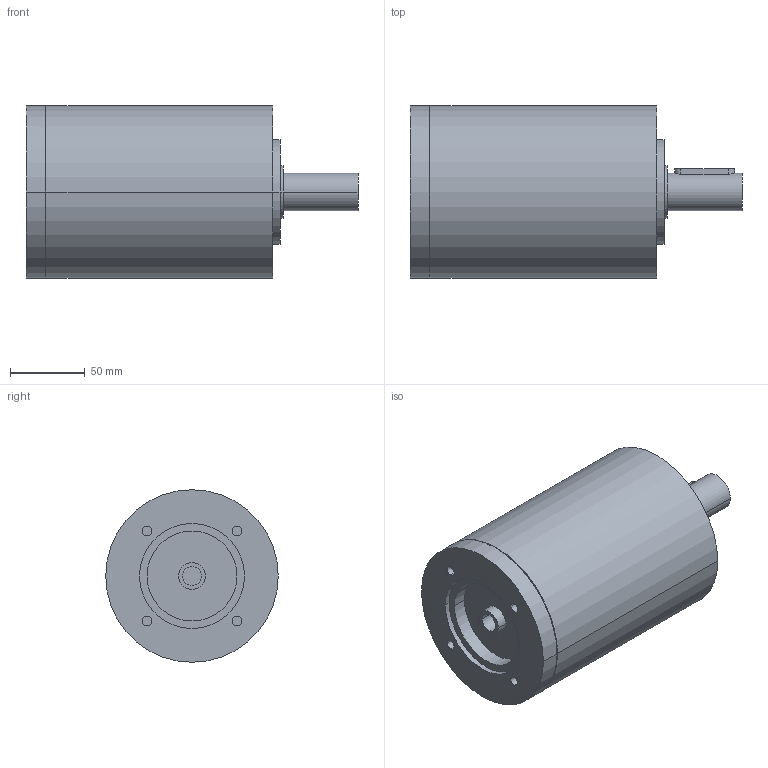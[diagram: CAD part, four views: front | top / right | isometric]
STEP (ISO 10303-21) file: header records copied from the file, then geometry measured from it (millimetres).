
FILE_DESCRIPTION(('CoCreate Modeling STEP Export'),'2;1');
FILE_NAME('GPR125_ig-9-12-16-20-28-35_25_B14_12.7_P03.stp','2014-08-26T14:09:16',(''),(''),'CoCreate Modeling STEP processor for AP214 (Solid Model)','CoCreate Modeling 16.00C 25-Feb-2009 (C) Parametric Technology GmbH','');
FILE_SCHEMA(('AUTOMOTIVE_DESIGN { 1 0 10303 214 1 1 1 1 }'));
Length unit declared in the file: millimetre
Products named in the file (2): GPR125_ig-9-12-16-20-28-35_25_B14_12.7_P03
Assembly tree (1 placements, depth 2):
  GPR125_ig-9-12-16-20-28-35_25_B14_12.7_P03
    GPR125_ig-9-12-16-20-28-35_25_B14_12.7_P03
Bounding box: 221.4 x 115 x 115 mm (x, y, z)
Volume: 1703777.3 mm3; surface area: 94455 mm2
Topology: 1 solids, 1 shells, 75 faces, 192 edges, 138 vertices
Faces by surface type: cylinder 46, plane 25, cone 4
Entity records: 1935 total; most frequent: ORIENTED_EDGE 380, CARTESIAN_POINT 359, DIRECTION 250, EDGE_CURVE 190, VERTEX_POINT 138, AXIS2_PLACEMENT_3D 97, EDGE_LOOP 96, FACE_OUTER_BOUND 75
